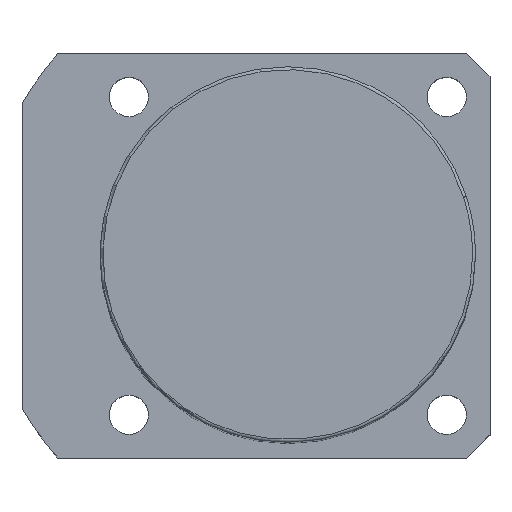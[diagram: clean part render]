
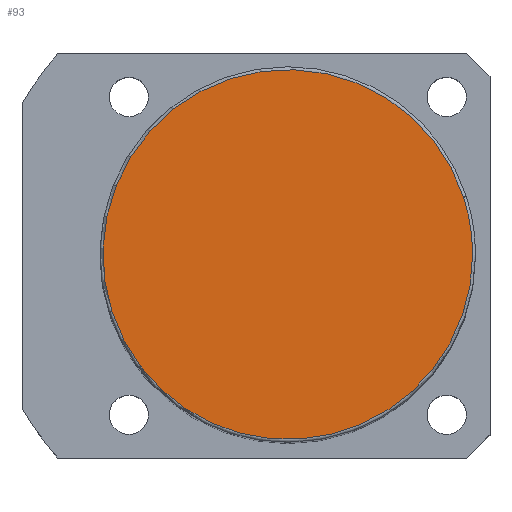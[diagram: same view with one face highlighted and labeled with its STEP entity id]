
A CAD part, top view. The second image highlights one B-rep face of the part: STEP entity #93.
In plain terms, the highlighted planar face has unit normal (0, 0, 1).
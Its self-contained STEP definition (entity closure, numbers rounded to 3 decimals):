
#16=CARTESIAN_POINT('',(30.434,9.889,146.0));
#17=VERTEX_POINT('',#16);
#45=CARTESIAN_POINT('',(-30.434,-9.889,146.0));
#46=VERTEX_POINT('',#45);
#54=CARTESIAN_POINT('',(0.0,0.0,146.0));
#55=DIRECTION('',(0.0,0.0,1.0));
#56=DIRECTION('',(1.0,0.0,0.0));
#57=AXIS2_PLACEMENT_3D('',#54,#55,#56);
#58=CIRCLE('',#57,32.0);
#59=EDGE_CURVE('no 890',#17,#46,#58,.T.);
#69=CARTESIAN_POINT('',(32.0,0.0,146.0));
#70=VERTEX_POINT('',#69);
#71=CARTESIAN_POINT('',(0.0,0.0,146.0));
#72=DIRECTION('',(0.0,0.0,1.0));
#73=DIRECTION('',(1.0,0.0,0.0));
#74=AXIS2_PLACEMENT_3D('',#71,#72,#73);
#75=CIRCLE('',#74,32.0);
#76=EDGE_CURVE('no 899',#70,#17,#75,.T.);
#77=ORIENTED_EDGE('',*,*,#76,.T.);
#78=ORIENTED_EDGE('',*,*,#59,.T.);
#79=CARTESIAN_POINT('',(0.0,0.0,146.0));
#80=DIRECTION('',(0.0,0.0,1.0));
#81=DIRECTION('',(1.0,0.0,0.0));
#82=AXIS2_PLACEMENT_3D('',#79,#80,#81);
#83=CIRCLE('',#82,32.0);
#84=EDGE_CURVE('no 905',#46,#70,#83,.T.);
#85=ORIENTED_EDGE('',*,*,#84,.T.);
#86=EDGE_LOOP('',(#77,#78,#85));
#87=FACE_OUTER_BOUND('',#86,.T.);
#88=CARTESIAN_POINT('',(0.0,0.0,146.0));
#89=DIRECTION('',(0.0,0.0,1.0));
#90=DIRECTION('',(1.0,0.0,0.0));
#91=AXIS2_PLACEMENT_3D('',#88,#89,#90);
#92=PLANE('',#91);
#93=ADVANCED_FACE('no 892',(#87),#92,.T.);
